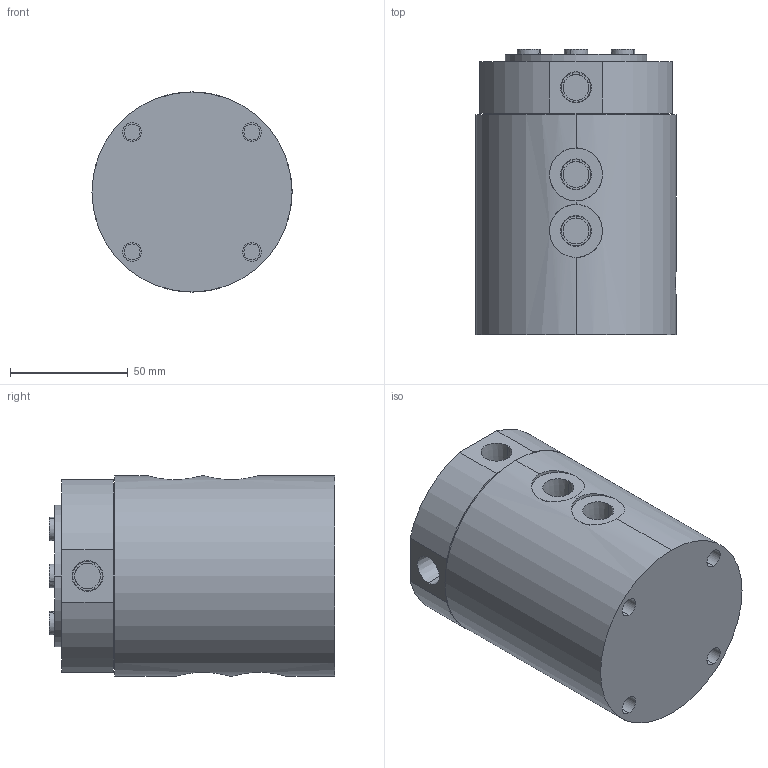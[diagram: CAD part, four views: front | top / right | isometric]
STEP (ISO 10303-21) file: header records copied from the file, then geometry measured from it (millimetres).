
FILE_DESCRIPTION((' '),'2;1');
FILE_NAME( 'PTMA04.x_t.stp', '2025-01-06T11:27:57', (' '), ('--- Datakit www.datakit.com---'), ' Datakit CrossCadWare V2024.1 Dec 21 2023', 'Mastercam 2025', ' ');
FILE_SCHEMA(('AUTOMOTIVE_DESIGN { 1 0 10303 214 1 1 1 1 }'));
Length unit declared in the file: millimetre
Products named in the file (1): PTMA04
Bounding box: 85 x 121.23 x 85 mm (x, y, z)
Volume: 635293.5 mm3; surface area: 66379.4 mm2
Topology: 6 solids, 6 shells, 218 faces, 473 edges, 315 vertices
Faces by surface type: plane 92, cylinder 84, cone 42
Entity records: 6719 total; most frequent: CARTESIAN_POINT 1524, DIRECTION 1116, ORIENTED_EDGE 946, EDGE_CURVE 473, AXIS2_PLACEMENT_3D 451, VERTEX_POINT 315, EDGE_LOOP 274, CIRCLE 232
